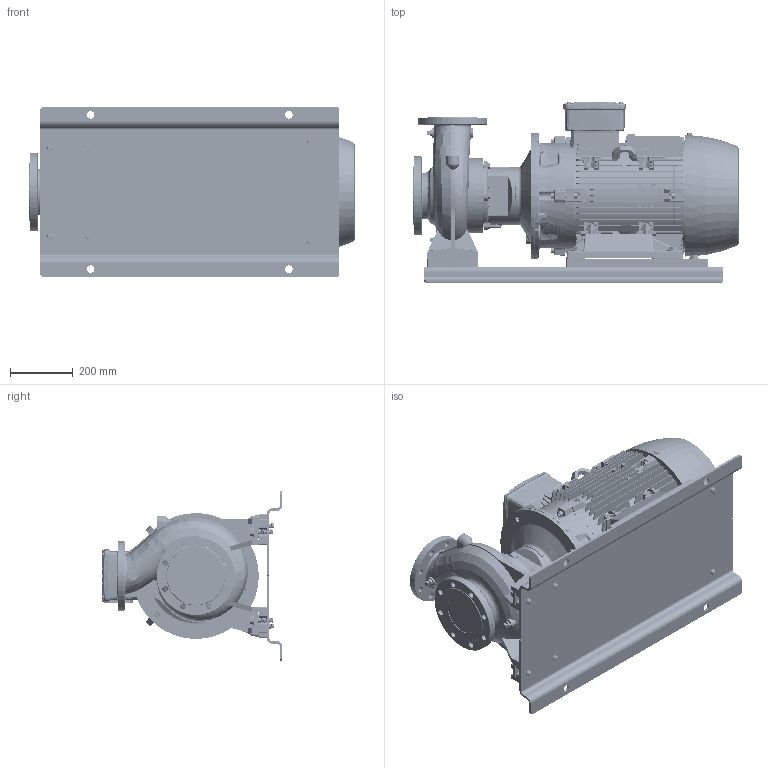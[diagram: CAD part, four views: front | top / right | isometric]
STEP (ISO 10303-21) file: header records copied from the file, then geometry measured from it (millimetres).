
FILE_DESCRIPTION (( 'STEP AP214' ), '1' );
FILE_NAME ('GSD2 100-160_30.0 & 37.0_(200ML)_W21_BP.STEP', '2024-08-02T05:03:31', ( '' ), ( '' ), 'SwSTEP 2.0', 'SolidWorks 2019', '' );
FILE_SCHEMA (( 'AUTOMOTIVE_DESIGN' ));
Length unit declared in the file: millimetre
Products named in the file (19): Parametric bolt and washer_SFT-A359B; Parametric bolt and washer_SFT-A365B; N6S2 GSDA-627 F1-1832940-00; GSD2  100-160_30.0 & 37.0_(200ML)_W21_BP; 80x25 - CGSDA-5271; Parametric bolt_SFT-A365B; 200M_L ALIE3_W21T_B35; Parametric Flat Washer_M16; Parametric bolt_SFT-A359B; 100-160-200M_L_______; CGS11-5321_2_3_4_5_CGS11-5322
Assembly tree (37 placements, depth 3):
  GSD2  100-160_30.0 & 37.0_(200ML)_W21_BP
    100-160-200M_L_______
    N6S2 GSDA-627 F1-1832940-00
    CGS11-5321_2_3_4_5_CGS11-5322  x2
    80x25 - CGSDA-5271  x2
    Parametric bolt and washer_SFT-A365B
      Parametric bolt_SFT-A365B
      Parametric Flat Washer_M16
    Parametric bolt and washer_SFT-A365B
      Parametric bolt_SFT-A365B
      Parametric Flat Washer_M16
    Parametric bolt and washer_SFT-A365B
      Parametric bolt_SFT-A365B
      Parametric Flat Washer_M16
    Parametric bolt and washer_SFT-A365B
      Parametric bolt_SFT-A365B
      Parametric Flat Washer_M16
    Parametric bolt and washer_SFT-A359B
      Parametric bolt_SFT-A359B
      Parametric Flat Washer_M16
    Parametric bolt and washer_SFT-A359B
      Parametric bolt_SFT-A359B
      Parametric Flat Washer_M16
    Parametric bolt and washer_SFT-A359B
      Parametric bolt_SFT-A359B
      Parametric Flat Washer_M16
    Parametric bolt and washer_SFT-A359B
      Parametric bolt_SFT-A359B
      Parametric Flat Washer_M16
    Parametric bolt and washer_SFT-A359B
      Parametric bolt_SFT-A359B
      Parametric Flat Washer_M16
    Parametric bolt and washer_SFT-A359B
      Parametric bolt_SFT-A359B
      Parametric Flat Washer_M16
    200M_L ALIE3_W21T_B35
Bounding box: 1033.8 x 574.5 x 540 mm (x, y, z)
Volume: 90443077.5 mm3; surface area: 5578315 mm2
Topology: 48 solids, 58 shells, 7246 faces, 18747 edges, 12025 vertices
Faces by surface type: plane 4189, cylinder 1300, bspline 1034, cone 528, torus 191, sphere 4
Entity records: 291573 total; most frequent: CARTESIAN_POINT 137447, ORIENTED_EDGE 34430, DIRECTION 27593, EDGE_CURVE 17215, VERTEX_POINT 11099, LINE 10625, VECTOR 10625, AXIS2_PLACEMENT_3D 8484
